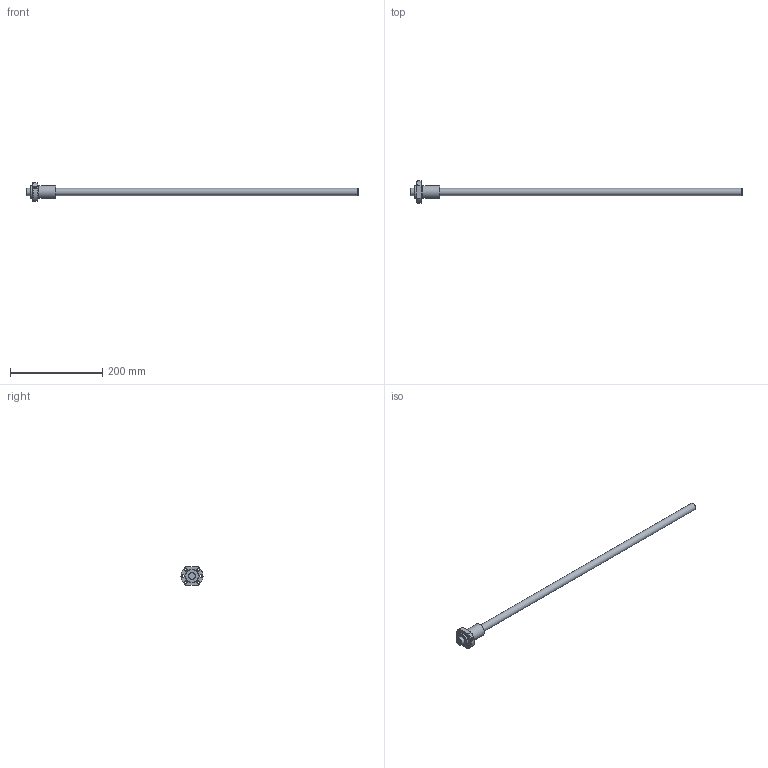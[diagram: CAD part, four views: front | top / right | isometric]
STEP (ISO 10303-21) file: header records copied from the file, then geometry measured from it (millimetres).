
FILE_DESCRIPTION(/* description */ ('STEP AP214'),/* implementation_level */ '2;1');
FILE_NAME(/* name */ 'EBB1605-4RRG0+720LC2-ebb2(645G000)-ebb2',/* time_stamp */ '2023-08-03T12:35:45+02:00',/* author */ ('License CC BY-ND 4.0'),/* organization */ ('CADENAS'),/* preprocessor_version */ 'ST-DEVELOPER v19.3',/* originating_system */ 'PARTsolutions',/* authorisation */ ' ');
FILE_SCHEMA (('AUTOMOTIVE_DESIGN {1 0 10303 214 3 1 1}'));
Length unit declared in the file: millimetre
Products named in the file (3): EBB1605-4RRG0+720LC2-ebb2(645G000)-ebb2; EBB 1605-4RR Nut2; EBB 1605-46450 Shaft2
Assembly tree (2 placements, depth 2):
  EBB1605-4RRG0+720LC2-ebb2(645G000)-ebb2
    EBB 1605-4RR Nut2
    EBB 1605-46450 Shaft2
Bounding box: 720 x 48 x 40 mm (x, y, z)
Volume: 176011.9 mm3; surface area: 48617.2 mm2
Topology: 2 solids, 2 shells, 32 faces, 72 edges, 47 vertices
Faces by surface type: cylinder 14, cone 9, plane 9
Full cylindrical faces by diameter (mm): 4.917 x1, 5.5 x6, 16 x2, 26.32 x1, 28 x2
Entity records: 935 total; most frequent: CARTESIAN_POINT 177, DIRECTION 148, ORIENTED_EDGE 106, AXIS2_PLACEMENT_3D 70, EDGE_LOOP 68, FACE_BOUND 68, EDGE_CURVE 53, VERTEX_POINT 45
